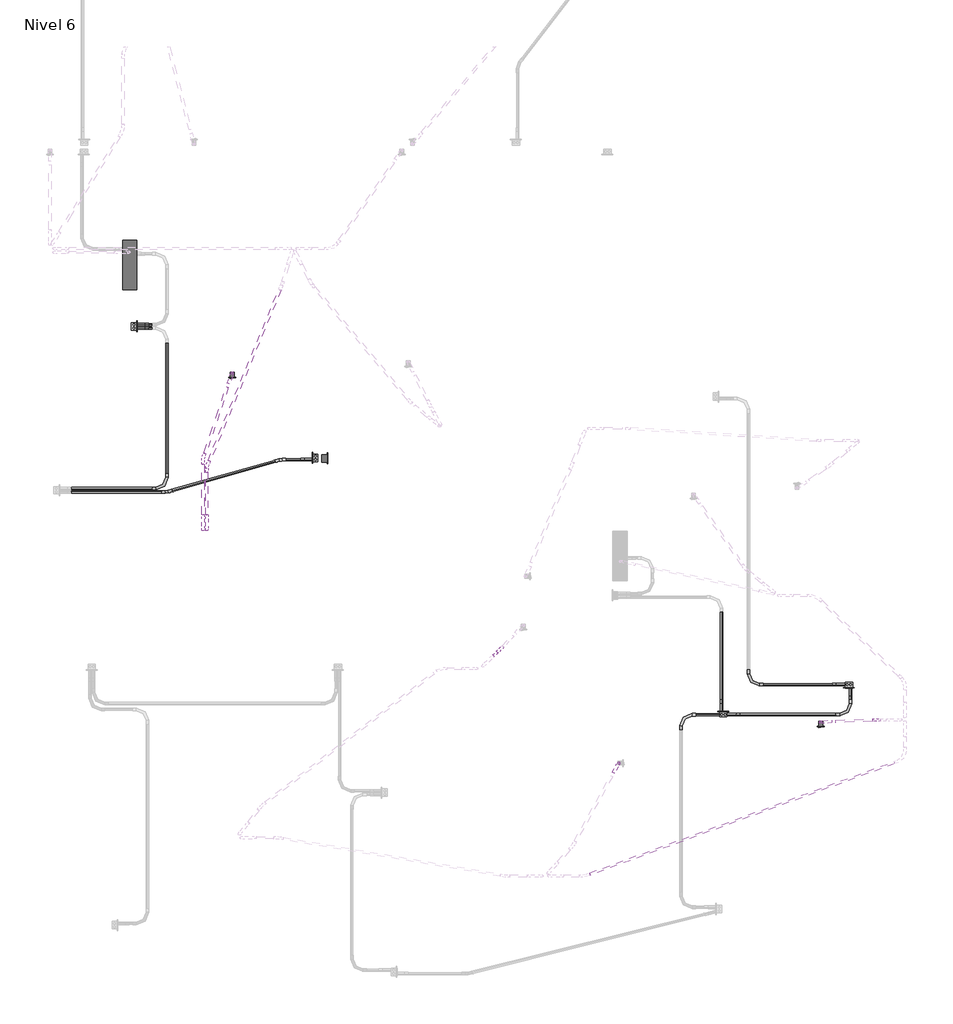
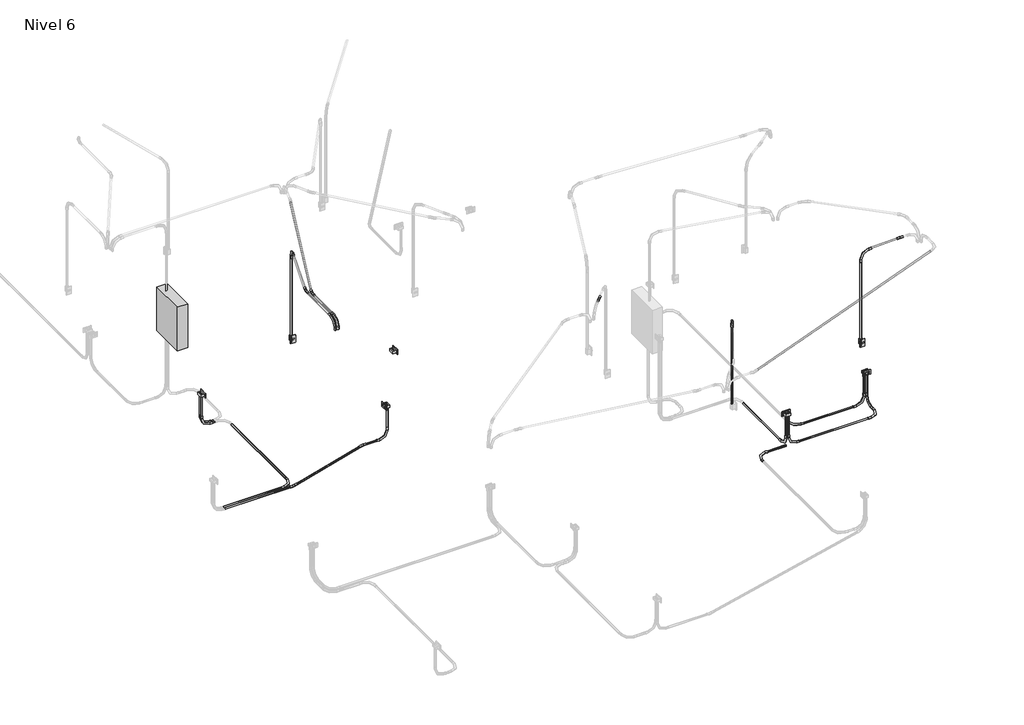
# One storey, part 4 of 9: 29 cable carrier segments, 22 cable carrier fittings, 6 proxies, 2 switching devices.
"""IFC4 building model written with IfcOpenShell, lengths in millimetres."""

from ifc_helpers import new_model, si_unit, point, frame, frame_2d, origin, place, context, project, spatial, circle_curve, trimmed, segment, composite_curve, outline, extrude, transform, mapped, element, save
from components import proxy_125_a_fe578df2, gfci_180f1b41, m_codo_de_tubo_extremo_liso_pvc_9da73e12, m_codo_de_tubo_extremo_liso_pvc_f2a7097b, m_codo_de_tubo_extremo_liso_pvc_48e1025b, m_codo_de_tubo_extremo_liso_pvc_62d78873, m_codo_de_tubo_extremo_liso_pvc_0abab895, m_codo_de_tubo_extremo_liso_pvc_664ab9d5, switching_device_22fed34b

model = new_model("IFC4")

# Units and contexts
model_context = context("Model", 3, world=origin())
ifc_project = project(units=[si_unit("LENGTHUNIT", "METRE", prefix="MILLI")], contexts=[model_context])

# Site, building, storey
site = spatial("IfcSite", under=ifc_project)
building = spatial("IfcBuilding", under=site)
storey = spatial("IfcBuildingStorey", under=building, Name="Nivel 6", Elevation=13400.0)

# Proxies
placement = place(None, origin())
proxy_125_a_shape = proxy_125_a_fe578df2(model_context)
element("IfcBuildingElementProxy", 1, Name="M_Cuadro de control de accesorios e iluminación - 480V MLO : 125 A", ObjectType="M_Cuadro de control de accesorios e iluminación - 480V MLO : 125 A", at=placement, inside=storey, context=model_context, shape_type="MappedRepresentation", body=[
    mapped(proxy_125_a_shape, transform((335.0, 7907.5416413, 14226.1274047), x_axis=(0.0, 1.0, 0.0), y_axis=(0.0, 0.0, 1.0), z_axis=(1.0, 0.0, 0.0))),
])
gfci_shape = gfci_180f1b41(model_context)
element("IfcBuildingElementProxy", 2, Name="Tomacorriente doble 220V : GFCI", ObjectType="Tomacorriente doble 220V : GFCI", at=placement, inside=storey, context=model_context, shape_type="MappedRepresentation", body=[
    mapped(gfci_shape, transform((335.0, 7274.5904162, 13800.0), x_axis=(0.0, 0.0, 1.0), y_axis=(0.0, -1.0, 0.0), z_axis=(1.0, 0.0, 0.0))),
])
element("IfcBuildingElementProxy", 3, Name="Tomacorriente doble 220V : GFCI", ObjectType="Tomacorriente doble 220V : GFCI", at=placement, inside=storey, context=model_context, shape_type="MappedRepresentation", body=[
    mapped(gfci_shape, transform((2150.0, 5918.0215918, 13800.0), x_axis=(0.0, 0.0, 1.0), y_axis=(0.0, 1.0, 0.0), z_axis=(-1.0, 0.0, 0.0))),
])
element("IfcBuildingElementProxy", 4, Name="Tomacorriente doble 220V : GFCI", ObjectType="Tomacorriente doble 220V : GFCI", at=placement, inside=storey, context=model_context, shape_type="MappedRepresentation", body=[
    mapped(gfci_shape, transform((2300.0, 5913.3908907, 14600.0), x_axis=(0.0, 0.0, 1.0), y_axis=(0.0, -1.0, 0.0), z_axis=(1.0, 0.0, 0.0))),
])
element("IfcBuildingElementProxy", 5, Name="Tomacorriente doble 220V : GFCI", ObjectType="Tomacorriente doble 220V : GFCI", at=placement, inside=storey, context=model_context, shape_type="MappedRepresentation", body=[
    mapped(gfci_shape, transform((6386.2285282, 3300.0, 13800.0), x_axis=(0.0, 0.0, 1.0), y_axis=(1.0, 0.0, 0.0), z_axis=(0.0, 1.0, 0.0))),
])
element("IfcBuildingElementProxy", 6, Name="Tomacorriente doble 220V : GFCI", ObjectType="Tomacorriente doble 220V : GFCI", at=placement, inside=storey, context=model_context, shape_type="MappedRepresentation", body=[
    mapped(gfci_shape, transform((7682.2800808, 3549.6610156, 13800.0), x_axis=(0.0, 0.0, 1.0), y_axis=(-1.0, 0.0, 0.0), z_axis=(0.0, -1.0, 0.0))),
])

# Cable carrier fittings
m_codo_de_tubo_extremo_liso_pvc_shape = m_codo_de_tubo_extremo_liso_pvc_9da73e12(model_context)
element("IfcCableCarrierFitting", 7, ObjectType="M_Codo de tubo - Extremo liso - PVC : CODO POTENCIA", at=placement, inside=storey, context=model_context, shape_type="MappedRepresentation", body=[
    mapped(m_codo_de_tubo_extremo_liso_pvc_shape, transform((2179.6371118, 5899.989772, 13330.0), x_axis=(0.0, 0.0, -1.0), y_axis=(-1.0, 0.0, 0.0), z_axis=(0.0, 1.0, 0.0))),
])
element("IfcCableCarrierFitting", 8, ObjectType="M_Codo de tubo - Extremo liso - PVC : CODO POTENCIA", at=placement, inside=storey, context=model_context, shape_type="MappedRepresentation", body=[
    mapped(m_codo_de_tubo_extremo_liso_pvc_shape, transform((305.3628882, 7256.5585964, 13330.0), x_axis=(0.0, 0.0, -1.0), y_axis=(1.0, 0.0, 0.0), z_axis=(0.0, -1.0, 0.0))),
])
element("IfcCableCarrierFitting", 9, ObjectType="M_Codo de tubo - Extremo liso - PVC : CODO POTENCIA", at=placement, inside=storey, context=model_context, shape_type="MappedRepresentation", body=[
    mapped(m_codo_de_tubo_extremo_liso_pvc_shape, transform((305.3628882, 7292.622236, 13330.0), x_axis=(0.0, 0.0, -1.0), y_axis=(1.0, 0.0, 0.0), z_axis=(0.0, -1.0, 0.0))),
])
element("IfcCableCarrierFitting", 10, ObjectType="M_Codo de tubo - Extremo liso - PVC : CODO POTENCIA", at=placement, inside=storey, context=model_context, shape_type="MappedRepresentation", body=[
    mapped(m_codo_de_tubo_extremo_liso_pvc_shape, transform((646.6378129, 5602.8931395, 13330.0), x_axis=(1.0, 0.0, 0.0), y_axis=(0.0, 1.0, 0.0), z_axis=(0.0, 0.0, 1.0))),
])
element("IfcCableCarrierFitting", 11, ObjectType="M_Codo de tubo - Extremo liso - PVC : CODO POTENCIA", at=placement, inside=storey, context=model_context, shape_type="MappedRepresentation", body=[
    mapped(m_codo_de_tubo_extremo_liso_pvc_shape, transform((5951.3261146, 3269.1760096, 13330.0), x_axis=(-1.0, 0.0, 0.0), y_axis=(0.0, -1.0, 0.0), z_axis=(0.0, 0.0, 1.0))),
])
element("IfcCableCarrierFitting", 12, ObjectType="M_Codo de tubo - Extremo liso - PVC : CODO POTENCIA", at=placement, inside=storey, context=model_context, shape_type="MappedRepresentation", body=[
    mapped(m_codo_de_tubo_extremo_liso_pvc_shape, transform((6368.1967084, 3270.3628882, 13330.0), x_axis=(0.0, 0.0, -1.0), y_axis=(0.0, 1.0, 0.0), z_axis=(1.0, 0.0, 0.0))),
])
element("IfcCableCarrierFitting", 13, ObjectType="M_Codo de tubo - Extremo liso - PVC : CODO POTENCIA", at=placement, inside=storey, context=model_context, shape_type="MappedRepresentation", body=[
    mapped(m_codo_de_tubo_extremo_liso_pvc_shape, transform((7700.3119006, 3579.2981273, 13330.0), x_axis=(0.0, 0.0, -1.0), y_axis=(0.0, -1.0, 0.0), z_axis=(-1.0, 0.0, 0.0))),
])
element("IfcCableCarrierFitting", 14, ObjectType="M_Codo de tubo - Extremo liso - PVC : CODO POTENCIA", at=placement, inside=storey, context=model_context, shape_type="MappedRepresentation", body=[
    mapped(m_codo_de_tubo_extremo_liso_pvc_shape, transform((6645.3628882, 3579.2981273, 13330.0), x_axis=(0.0, -1.0, 0.0), y_axis=(1.0, 0.0, 0.0), z_axis=(0.0, 0.0, 1.0))),
])
element("IfcCableCarrierFitting", 15, ObjectType="M_Codo de tubo - Extremo liso - PVC : CODO POTENCIA", at=placement, inside=storey, context=model_context, shape_type="MappedRepresentation", body=[
    mapped(m_codo_de_tubo_extremo_liso_pvc_shape, transform((7664.248261, 3579.2981273, 13330.0), x_axis=(0.0, 0.0, -1.0), y_axis=(-1.0, 0.0, 0.0), z_axis=(0.0, 1.0, 0.0))),
])
element("IfcCableCarrierFitting", 16, ObjectType="M_Codo de tubo - Extremo liso - PVC : CODO POTENCIA", at=placement, inside=storey, context=model_context, shape_type="MappedRepresentation", body=[
    mapped(m_codo_de_tubo_extremo_liso_pvc_shape, transform((7700.3119006, 3270.3628882, 13330.0), x_axis=(1.0, 0.0, 0.0), y_axis=(0.0, 1.0, 0.0), z_axis=(0.0, 0.0, 1.0))),
])
element("IfcCableCarrierFitting", 17, ObjectType="M_Codo de tubo - Extremo liso - PVC : CODO POTENCIA", at=placement, inside=storey, context=model_context, shape_type="MappedRepresentation", body=[
    mapped(m_codo_de_tubo_extremo_liso_pvc_shape, transform((6404.260348, 3270.3628882, 13330.0), x_axis=(0.0, 0.0, -1.0), y_axis=(1.0, 0.0, 0.0), z_axis=(0.0, -1.0, 0.0))),
])
m_codo_de_tubo_extremo_liso_pvc_2_shape = m_codo_de_tubo_extremo_liso_pvc_f2a7097b(model_context)
element("IfcCableCarrierFitting", 18, ObjectType="M_Codo de tubo - Extremo liso - PVC : CODO POTENCIA", at=placement, inside=storey, context=model_context, shape_type="MappedRepresentation", body=[
    mapped(m_codo_de_tubo_extremo_liso_pvc_2_shape, transform((1819.6371118, 5899.989772, 13330.0), x_axis=(-1.0, 0.0, 0.0), y_axis=(0.0, -1.0, 0.0), z_axis=(0.0, 0.0, 1.0))),
])
element("IfcCableCarrierFitting", 19, ObjectType="M_Codo de tubo - Extremo liso - PVC : CODO POTENCIA", at=placement, inside=storey, context=model_context, shape_type="MappedRepresentation", body=[
    mapped(m_codo_de_tubo_extremo_liso_pvc_2_shape, transform((645.3628882, 5566.8294999, 13330.0), x_axis=(1.0, 0.0, 0.0), y_axis=(0.0, 1.0, 0.0), z_axis=(0.0, 0.0, 1.0))),
])
element("IfcCableCarrierFitting", 20, ObjectType="M_Codo de tubo - Extremo liso - PVC : CODO ILUMINACION", at=placement, inside=storey, context=model_context, shape_type="MappedRepresentation", body=[
    mapped(m_codo_de_tubo_extremo_liso_pvc_shape, transform((1058.275748, 5177.91766, 15950.0), x_axis=(0.0, -1.0, 0.0), y_axis=(0.0, 0.0, -1.0), z_axis=(1.0, 0.0, 0.0))),
])
element("IfcCableCarrierFitting", 21, ObjectType="M_Codo de tubo - Extremo liso - PVC : CODO ILUMINACION", at=placement, inside=storey, context=model_context, shape_type="MappedRepresentation", body=[
    mapped(m_codo_de_tubo_extremo_liso_pvc_shape, transform((1018.275748, 5177.91766, 15950.0), x_axis=(0.0, -1.0, 0.0), y_axis=(0.0, 0.0, -1.0), z_axis=(1.0, 0.0, 0.0))),
])
element("IfcCableCarrierFitting", 22, ObjectType="M_Codo de tubo - Extremo liso - PVC : CODO ILUMINACION", at=placement, inside=storey, context=model_context, shape_type="MappedRepresentation", body=[
    mapped(m_codo_de_tubo_extremo_liso_pvc_shape, transform((1320.1354742, 6793.1388757, 15950.0), x_axis=(0.0, 0.0, 1.0), y_axis=(-0.32353601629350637, -0.9462158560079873, 0.0), z_axis=(0.9462158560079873, -0.32353601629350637, 0.0))),
])
element("IfcCableCarrierFitting", 23, ObjectType="M_Codo de tubo - Extremo liso - PVC : CODO ILUMINACION", at=placement, inside=storey, context=model_context, shape_type="MappedRepresentation", body=[
    mapped(m_codo_de_tubo_extremo_liso_pvc_shape, transform((7391.9514599, 3193.1388756, 15950.0), x_axis=(0.0, 0.0, 1.0), y_axis=(0.9992435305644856, 0.038889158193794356, 0.0), z_axis=(-0.038889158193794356, 0.9992435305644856, 0.0))),
])
element("IfcCableCarrierFitting", 24, ObjectType="M_Codo de tubo - Extremo liso - PVC : CODO ILUMINACION", at=placement, inside=storey, context=model_context, shape_type="MappedRepresentation", body=[
    mapped(m_codo_de_tubo_extremo_liso_pvc_shape, transform((5306.9554403, 2769.726494, 15950.0), x_axis=(0.0, 0.0, 1.0), y_axis=(-0.47754354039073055, -0.8786080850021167, 0.0), z_axis=(0.8786080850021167, -0.47754354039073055, 0.0))),
])
m_codo_de_tubo_extremo_liso_pvc_3_shape = m_codo_de_tubo_extremo_liso_pvc_48e1025b(model_context)
element("IfcCableCarrierFitting", 25, ObjectType="M_Codo de tubo - Extremo liso - PVC : CODO ILUMINACION", at=placement, inside=storey, context=model_context, shape_type="MappedRepresentation", body=[
    mapped(m_codo_de_tubo_extremo_liso_pvc_3_shape, transform((1058.275748, 5831.8941195, 15950.0), x_axis=(-0.3825908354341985, -0.9239178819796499, 0.0), y_axis=(0.9239178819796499, -0.3825908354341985, 0.0), z_axis=(0.0, 0.0, 1.0))),
])
m_codo_de_tubo_extremo_liso_pvc_4_shape = m_codo_de_tubo_extremo_liso_pvc_62d78873(model_context)
element("IfcCableCarrierFitting", 26, ObjectType="M_Codo de tubo - Extremo liso - PVC : CODO ILUMINACION", at=placement, inside=storey, context=model_context, shape_type="MappedRepresentation", body=[
    mapped(m_codo_de_tubo_extremo_liso_pvc_4_shape, transform((1018.275748, 5910.31766, 15950.0), x_axis=(-0.32353601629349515, -0.9462158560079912, 0.0), y_axis=(0.9462158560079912, -0.32353601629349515, 0.0), z_axis=(0.0, 0.0, 1.0))),
])
m_codo_de_tubo_extremo_liso_pvc_5_shape = m_codo_de_tubo_extremo_liso_pvc_0abab895(model_context)
element("IfcCableCarrierFitting", 27, ObjectType="M_Codo de tubo - Extremo liso - PVC : CODO ILUMINACION", at=placement, inside=storey, context=model_context, shape_type="MappedRepresentation", body=[
    mapped(m_codo_de_tubo_extremo_liso_pvc_5_shape, transform((7966.4581979, 3215.497873, 15950.0), x_axis=(-1.0, 0.0, 0.0), y_axis=(0.0, -1.0, 0.0), z_axis=(0.0, 0.0, 1.0))),
])
m_codo_de_tubo_extremo_liso_pvc_6_shape = m_codo_de_tubo_extremo_liso_pvc_664ab9d5(model_context)
element("IfcCableCarrierFitting", 28, ObjectType="M_Codo de tubo - Extremo liso - PVC : CODO ILUMINACION", at=placement, inside=storey, context=model_context, shape_type="MappedRepresentation", body=[
    mapped(m_codo_de_tubo_extremo_liso_pvc_6_shape, transform((4084.8613398, 3942.8790612, 15950.0), x_axis=(0.7193398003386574, 0.6946583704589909, 0.0), y_axis=(-0.6946583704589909, 0.7193398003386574, 0.0), z_axis=(0.0, 0.0, 1.0))),
])

# Cable carrier segments
element("IfcCableCarrierSegment", 29, ObjectType="PVC-SEL, POTENCIA", at=placement, inside=storey, context=model_context, shape_type="SweptSolid", body=[
    extrude(outline(composite_curve([segment(trimmed(circle_curve(frame_2d((5566.8294999, 13330.0)), 11.71), [point((5555.1194999, 13330.0))], [point((5566.8294999, 13341.71))], False, "CARTESIAN"), True, "CONTINUOUS"), segment(trimmed(circle_curve(frame_2d((5566.8294999, 13330.0)), 11.71), [point((5566.8294999, 13341.71))], [point((5578.5394999, 13330.0))], False, "CARTESIAN"), True, "CONTINUOUS"), segment(trimmed(circle_curve(frame_2d((5566.8294999, 13330.0)), 11.71), [point((5578.5394999, 13330.0))], [point((5566.8294999, 13318.29))], False, "CARTESIAN"), True, "CONTINUOUS"), segment(trimmed(circle_curve(frame_2d((5566.8294999, 13330.0)), 11.71), [point((5566.8294999, 13318.29))], [point((5555.1194999, 13330.0))], False, "CARTESIAN"), True, "CONTINUOUS")], self_intersect=False)), frame((-342.2371118, 0.0, 0.0), z_axis=(1.0, 0.0, 0.0), x_axis=(0.0, 1.0, 0.0)), (0.0, 0.0, 1.0), 933.5994219),
])
element("IfcCableCarrierSegment", 30, ObjectType="PVC-SEL, POTENCIA", at=placement, inside=storey, context=model_context, shape_type="SweptSolid", body=[
    extrude(outline(composite_curve([segment(trimmed(circle_curve(frame_2d((5602.8931395, 13330.0)), 11.71), [point((5591.1831395, 13330.0))], [point((5602.8931395, 13341.71))], False, "CARTESIAN"), True, "CONTINUOUS"), segment(trimmed(circle_curve(frame_2d((5602.8931395, 13330.0)), 11.71), [point((5602.8931395, 13341.71))], [point((5614.6031395, 13330.0))], False, "CARTESIAN"), True, "CONTINUOUS"), segment(trimmed(circle_curve(frame_2d((5602.8931395, 13330.0)), 11.71), [point((5614.6031395, 13330.0))], [point((5602.8931395, 13318.29))], False, "CARTESIAN"), True, "CONTINUOUS"), segment(trimmed(circle_curve(frame_2d((5602.8931395, 13330.0)), 11.71), [point((5602.8931395, 13318.29))], [point((5591.1831395, 13330.0))], False, "CARTESIAN"), True, "CONTINUOUS")], self_intersect=False)), frame((-342.2371118, 0.0, 0.0), z_axis=(1.0, 0.0, 0.0), x_axis=(0.0, 1.0, 0.0)), (0.0, 0.0, 1.0), 836.4749247),
])
element("IfcCableCarrierSegment", 31, ObjectType="PVC-SEL, POTENCIA", at=placement, inside=storey, context=model_context, shape_type="SweptSolid", body=[
    extrude(outline(composite_curve([segment(trimmed(circle_curve(frame_2d((5899.989772, 13330.0)), 11.71), [point((5911.699772, 13330.0))], [point((5899.989772, 13318.29))], False, "CARTESIAN"), True, "CONTINUOUS"), segment(trimmed(circle_curve(frame_2d((5899.989772, 13330.0)), 11.71), [point((5899.989772, 13318.29))], [point((5888.279772, 13330.0))], False, "CARTESIAN"), True, "CONTINUOUS"), segment(trimmed(circle_curve(frame_2d((5899.989772, 13330.0)), 11.71), [point((5888.279772, 13330.0))], [point((5899.989772, 13341.71))], False, "CARTESIAN"), True, "CONTINUOUS"), segment(trimmed(circle_curve(frame_2d((5899.989772, 13330.0)), 11.71), [point((5899.989772, 13341.71))], [point((5911.699772, 13330.0))], False, "CARTESIAN"), True, "CONTINUOUS")], self_intersect=False)), frame((1873.6376899, 0.0, 0.0), z_axis=(1.0, 0.0, 0.0), x_axis=(0.0, 1.0, 0.0)), (0.0, 0.0, 1.0), 153.5994219),
])
element("IfcCableCarrierSegment", 32, ObjectType="PVC-SEL, POTENCIA", at=placement, inside=storey, context=model_context, shape_type="SweptSolid", body=[
    extrude(outline(composite_curve([segment(trimmed(circle_curve(frame_2d((2179.6371118, 5899.989772)), 11.71), [point((2191.3471118, 5899.989772))], [point((2179.6371118, 5888.279772))], False, "CARTESIAN"), True, "CONTINUOUS"), segment(trimmed(circle_curve(frame_2d((2179.6371118, 5899.989772)), 11.71), [point((2179.6371118, 5888.279772))], [point((2167.9271118, 5899.989772))], False, "CARTESIAN"), True, "CONTINUOUS"), segment(trimmed(circle_curve(frame_2d((2179.6371118, 5899.989772)), 11.71), [point((2167.9271118, 5899.989772))], [point((2179.6371118, 5911.699772))], False, "CARTESIAN"), True, "CONTINUOUS"), segment(trimmed(circle_curve(frame_2d((2179.6371118, 5899.989772)), 11.71), [point((2179.6371118, 5911.699772))], [point((2191.3471118, 5899.989772))], False, "CARTESIAN"), True, "CONTINUOUS")], self_intersect=False)), frame((0.0, 0.0, 13482.4), z_axis=(0.0, 0.0, 1.0), x_axis=(1.0, 0.0, 0.0)), (0.0, 0.0, 1.0), 297.3020537),
])
element("IfcCableCarrierSegment", 33, ObjectType="PVC-SEL, POTENCIA", at=placement, inside=storey, context=model_context, shape_type="SweptSolid", body=[
    extrude(outline(composite_curve([segment(trimmed(circle_curve(frame_2d((0.0, -11.71)), 11.71), [point((-11.71, -11.71))], [point((0.0, 0.0))], False, "CARTESIAN"), True, "CONTINUOUS"), segment(trimmed(circle_curve(frame_2d((0.0, -11.71)), 11.71), [point((0.0, 0.0))], [point((11.71, -11.71))], False, "CARTESIAN"), True, "CONTINUOUS"), segment(trimmed(circle_curve(frame_2d((0.0, -11.71)), 11.71), [point((11.71, -11.71))], [point((0.0, -23.42))], False, "CARTESIAN"), True, "CONTINUOUS"), segment(trimmed(circle_curve(frame_2d((0.0, -11.71)), 11.71), [point((0.0, -23.42))], [point((-11.71, -11.71))], False, "CARTESIAN"), True, "CONTINUOUS")], self_intersect=False)), frame((697.3130717, 5581.5685931, 13318.29), z_axis=(0.9620301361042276, 0.27294324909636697, 0.0), x_axis=(0.27294324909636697, -0.9620301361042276, 0.0)), (0.0, 0.0, 1.0), 1112.6198821),
])
element("IfcCableCarrierSegment", 34, ObjectType="PVC-SEL, POTENCIA", at=placement, inside=storey, context=model_context, shape_type="SweptSolid", body=[
    extrude(outline(composite_curve([segment(trimmed(circle_curve(frame_2d((13330.0, 646.6378129)), 11.71), [point((13330.0, 634.9278129))], [point((13318.29, 646.6378129))], False, "CARTESIAN"), True, "CONTINUOUS"), segment(trimmed(circle_curve(frame_2d((13330.0, 646.6378129)), 11.71), [point((13318.29, 646.6378129))], [point((13330.0, 658.3478129))], False, "CARTESIAN"), True, "CONTINUOUS"), segment(trimmed(circle_curve(frame_2d((13330.0, 646.6378129)), 11.71), [point((13330.0, 658.3478129))], [point((13341.71, 646.6378129))], False, "CARTESIAN"), True, "CONTINUOUS"), segment(trimmed(circle_curve(frame_2d((13330.0, 646.6378129)), 11.71), [point((13341.71, 646.6378129))], [point((13330.0, 634.9278129))], False, "CARTESIAN"), True, "CONTINUOUS")], self_intersect=False)), frame((0.0, 5755.2931395, 0.0), z_axis=(0.0, 1.0, 0.0), x_axis=(0.0, 0.0, 1.0)), (0.0, 0.0, 1.0), 1348.8654568),
])
element("IfcCableCarrierSegment", 35, ObjectType="PVC-SEL, POTENCIA", at=placement, inside=storey, context=model_context, shape_type="SweptSolid", body=[
    extrude(outline(composite_curve([segment(trimmed(circle_curve(frame_2d((7256.5585964, 13330.0)), 11.71), [point((7244.8485964, 13330.0))], [point((7256.5585964, 13341.71))], False, "CARTESIAN"), True, "CONTINUOUS"), segment(trimmed(circle_curve(frame_2d((7256.5585964, 13330.0)), 11.71), [point((7256.5585964, 13341.71))], [point((7268.2685964, 13330.0))], False, "CARTESIAN"), True, "CONTINUOUS"), segment(trimmed(circle_curve(frame_2d((7256.5585964, 13330.0)), 11.71), [point((7268.2685964, 13330.0))], [point((7256.5585964, 13318.29))], False, "CARTESIAN"), True, "CONTINUOUS"), segment(trimmed(circle_curve(frame_2d((7256.5585964, 13330.0)), 11.71), [point((7256.5585964, 13318.29))], [point((7244.8485964, 13330.0))], False, "CARTESIAN"), True, "CONTINUOUS")], self_intersect=False)), frame((457.7628882, 0.0, 0.0), z_axis=(1.0, 0.0, 0.0), x_axis=(0.0, 1.0, 0.0)), (0.0, 0.0, 1.0), 36.4749247),
])
element("IfcCableCarrierSegment", 36, ObjectType="PVC-SEL, POTENCIA", at=placement, inside=storey, context=model_context, shape_type="SweptSolid", body=[
    extrude(outline(composite_curve([segment(trimmed(circle_curve(frame_2d((305.3628882, 7256.5585964)), 11.71), [point((317.0728882, 7256.5585964))], [point((305.3628882, 7244.8485964))], False, "CARTESIAN"), True, "CONTINUOUS"), segment(trimmed(circle_curve(frame_2d((305.3628882, 7256.5585964)), 11.71), [point((305.3628882, 7244.8485964))], [point((293.6528882, 7256.5585964))], False, "CARTESIAN"), True, "CONTINUOUS"), segment(trimmed(circle_curve(frame_2d((305.3628882, 7256.5585964)), 11.71), [point((293.6528882, 7256.5585964))], [point((305.3628882, 7268.2685964))], False, "CARTESIAN"), True, "CONTINUOUS"), segment(trimmed(circle_curve(frame_2d((305.3628882, 7256.5585964)), 11.71), [point((305.3628882, 7268.2685964))], [point((317.0728882, 7256.5585964))], False, "CARTESIAN"), True, "CONTINUOUS")], self_intersect=False)), frame((0.0, 0.0, 13482.4), z_axis=(0.0, 0.0, 1.0), x_axis=(1.0, 0.0, 0.0)), (0.0, 0.0, 1.0), 297.3020537),
])
element("IfcCableCarrierSegment", 37, ObjectType="PVC-SEL, POTENCIA", at=placement, inside=storey, context=model_context, shape_type="SweptSolid", body=[
    extrude(outline(composite_curve([segment(trimmed(circle_curve(frame_2d((7292.622236, 13330.0)), 11.71), [point((7280.912236, 13330.0))], [point((7292.622236, 13341.71))], False, "CARTESIAN"), True, "CONTINUOUS"), segment(trimmed(circle_curve(frame_2d((7292.622236, 13330.0)), 11.71), [point((7292.622236, 13341.71))], [point((7304.332236, 13330.0))], False, "CARTESIAN"), True, "CONTINUOUS"), segment(trimmed(circle_curve(frame_2d((7292.622236, 13330.0)), 11.71), [point((7304.332236, 13330.0))], [point((7292.622236, 13318.29))], False, "CARTESIAN"), True, "CONTINUOUS"), segment(trimmed(circle_curve(frame_2d((7292.622236, 13330.0)), 11.71), [point((7292.622236, 13318.29))], [point((7280.912236, 13330.0))], False, "CARTESIAN"), True, "CONTINUOUS")], self_intersect=False)), frame((457.7628882, 0.0, 0.0), z_axis=(1.0, 0.0, 0.0), x_axis=(0.0, 1.0, 0.0)), (0.0, 0.0, 1.0), 36.4749247),
])
element("IfcCableCarrierSegment", 38, ObjectType="PVC-SEL, POTENCIA", at=placement, inside=storey, context=model_context, shape_type="SweptSolid", body=[
    extrude(outline(composite_curve([segment(trimmed(circle_curve(frame_2d((305.3628882, 7292.622236)), 11.71), [point((317.0728882, 7292.622236))], [point((305.3628882, 7280.912236))], False, "CARTESIAN"), True, "CONTINUOUS"), segment(trimmed(circle_curve(frame_2d((305.3628882, 7292.622236)), 11.71), [point((305.3628882, 7280.912236))], [point((293.6528882, 7292.622236))], False, "CARTESIAN"), True, "CONTINUOUS"), segment(trimmed(circle_curve(frame_2d((305.3628882, 7292.622236)), 11.71), [point((293.6528882, 7292.622236))], [point((305.3628882, 7304.332236))], False, "CARTESIAN"), True, "CONTINUOUS"), segment(trimmed(circle_curve(frame_2d((305.3628882, 7292.622236)), 11.71), [point((305.3628882, 7304.332236))], [point((317.0728882, 7292.622236))], False, "CARTESIAN"), True, "CONTINUOUS")], self_intersect=False)), frame((0.0, 0.0, 13482.4), z_axis=(0.0, 0.0, 1.0), x_axis=(1.0, 0.0, 0.0)), (0.0, 0.0, 1.0), 297.3020537),
])
element("IfcCableCarrierSegment", 39, ObjectType="PVC-SEL, POTENCIA", at=placement, inside=storey, context=model_context, shape_type="SweptSolid", body=[
    extrude(outline(composite_curve([segment(trimmed(circle_curve(frame_2d((7664.248261, 3579.2981273)), 11.71), [point((7675.958261, 3579.2981273))], [point((7664.248261, 3567.5881273))], False, "CARTESIAN"), True, "CONTINUOUS"), segment(trimmed(circle_curve(frame_2d((7664.248261, 3579.2981273)), 11.71), [point((7664.248261, 3567.5881273))], [point((7652.538261, 3579.2981273))], False, "CARTESIAN"), True, "CONTINUOUS"), segment(trimmed(circle_curve(frame_2d((7664.248261, 3579.2981273)), 11.71), [point((7652.538261, 3579.2981273))], [point((7664.248261, 3591.0081273))], False, "CARTESIAN"), True, "CONTINUOUS"), segment(trimmed(circle_curve(frame_2d((7664.248261, 3579.2981273)), 11.71), [point((7664.248261, 3591.0081273))], [point((7675.958261, 3579.2981273))], False, "CARTESIAN"), True, "CONTINUOUS")], self_intersect=False)), frame((0.0, 0.0, 13482.4), z_axis=(0.0, 0.0, 1.0), x_axis=(1.0, 0.0, 0.0)), (0.0, 0.0, 1.0), 297.3020537),
])
element("IfcCableCarrierSegment", 40, ObjectType="PVC-SEL, POTENCIA", at=placement, inside=storey, context=model_context, shape_type="SweptSolid", body=[
    extrude(outline(composite_curve([segment(trimmed(circle_curve(frame_2d((3270.3628882, 13330.0)), 11.71), [point((3282.0728882, 13330.0))], [point((3270.3628882, 13318.29))], False, "CARTESIAN"), True, "CONTINUOUS"), segment(trimmed(circle_curve(frame_2d((3270.3628882, 13330.0)), 11.71), [point((3270.3628882, 13318.29))], [point((3258.6528882, 13330.0))], False, "CARTESIAN"), True, "CONTINUOUS"), segment(trimmed(circle_curve(frame_2d((3270.3628882, 13330.0)), 11.71), [point((3258.6528882, 13330.0))], [point((3270.3628882, 13341.71))], False, "CARTESIAN"), True, "CONTINUOUS"), segment(trimmed(circle_curve(frame_2d((3270.3628882, 13330.0)), 11.71), [point((3270.3628882, 13341.71))], [point((3282.0728882, 13330.0))], False, "CARTESIAN"), True, "CONTINUOUS")], self_intersect=False)), frame((6556.660348, 0.0, 0.0), z_axis=(1.0, 0.0, 0.0), x_axis=(0.0, 1.0, 0.0)), (0.0, 0.0, 1.0), 991.2515526),
])
element("IfcCableCarrierSegment", 41, ObjectType="PVC-SEL, POTENCIA", at=placement, inside=storey, context=model_context, shape_type="SweptSolid", body=[
    extrude(outline(composite_curve([segment(trimmed(circle_curve(frame_2d((6404.260348, 3270.3628882)), 11.71), [point((6415.970348, 3270.3628882))], [point((6404.260348, 3258.6528882))], False, "CARTESIAN"), True, "CONTINUOUS"), segment(trimmed(circle_curve(frame_2d((6404.260348, 3270.3628882)), 11.71), [point((6404.260348, 3258.6528882))], [point((6392.550348, 3270.3628882))], False, "CARTESIAN"), True, "CONTINUOUS"), segment(trimmed(circle_curve(frame_2d((6404.260348, 3270.3628882)), 11.71), [point((6392.550348, 3270.3628882))], [point((6404.260348, 3282.0728882))], False, "CARTESIAN"), True, "CONTINUOUS"), segment(trimmed(circle_curve(frame_2d((6404.260348, 3270.3628882)), 11.71), [point((6404.260348, 3282.0728882))], [point((6415.970348, 3270.3628882))], False, "CARTESIAN"), True, "CONTINUOUS")], self_intersect=False)), frame((0.0, 0.0, 13482.4), z_axis=(0.0, 0.0, 1.0), x_axis=(1.0, 0.0, 0.0)), (0.0, 0.0, 1.0), 297.3020537),
])
element("IfcCableCarrierSegment", 42, ObjectType="PVC-SEL, POTENCIA", at=placement, inside=storey, context=model_context, shape_type="SweptSolid", body=[
    extrude(outline(composite_curve([segment(trimmed(circle_curve(frame_2d((13330.0, 6368.1967084)), 11.71), [point((13330.0, 6379.9067084))], [point((13341.71, 6368.1967084))], False, "CARTESIAN"), True, "CONTINUOUS"), segment(trimmed(circle_curve(frame_2d((13330.0, 6368.1967084)), 11.71), [point((13341.71, 6368.1967084))], [point((13330.0, 6356.4867084))], False, "CARTESIAN"), True, "CONTINUOUS"), segment(trimmed(circle_curve(frame_2d((13330.0, 6368.1967084)), 11.71), [point((13330.0, 6356.4867084))], [point((13318.29, 6368.1967084))], False, "CARTESIAN"), True, "CONTINUOUS"), segment(trimmed(circle_curve(frame_2d((13330.0, 6368.1967084)), 11.71), [point((13318.29, 6368.1967084))], [point((13330.0, 6379.9067084))], False, "CARTESIAN"), True, "CONTINUOUS")], self_intersect=False)), frame((0.0, 3422.7628882, 0.0), z_axis=(0.0, 1.0, 0.0), x_axis=(0.0, 0.0, 1.0)), (0.0, 0.0, 1.0), 906.4005007),
])
element("IfcCableCarrierSegment", 43, ObjectType="PVC-SEL, POTENCIA", at=placement, inside=storey, context=model_context, shape_type="SweptSolid", body=[
    extrude(outline(composite_curve([segment(trimmed(circle_curve(frame_2d((6368.1967084, 3270.3628882)), 11.71), [point((6379.9067084, 3270.3628882))], [point((6368.1967084, 3258.6528882))], False, "CARTESIAN"), True, "CONTINUOUS"), segment(trimmed(circle_curve(frame_2d((6368.1967084, 3270.3628882)), 11.71), [point((6368.1967084, 3258.6528882))], [point((6356.4867084, 3270.3628882))], False, "CARTESIAN"), True, "CONTINUOUS"), segment(trimmed(circle_curve(frame_2d((6368.1967084, 3270.3628882)), 11.71), [point((6356.4867084, 3270.3628882))], [point((6368.1967084, 3282.0728882))], False, "CARTESIAN"), True, "CONTINUOUS"), segment(trimmed(circle_curve(frame_2d((6368.1967084, 3270.3628882)), 11.71), [point((6368.1967084, 3282.0728882))], [point((6379.9067084, 3270.3628882))], False, "CARTESIAN"), True, "CONTINUOUS")], self_intersect=False)), frame((0.0, 0.0, 13482.4), z_axis=(0.0, 0.0, 1.0), x_axis=(1.0, 0.0, 0.0)), (0.0, 0.0, 1.0), 297.3020537),
])
element("IfcCableCarrierSegment", 44, ObjectType="PVC-SEL, POTENCIA", at=placement, inside=storey, context=model_context, shape_type="SweptSolid", body=[
    extrude(outline(composite_curve([segment(trimmed(circle_curve(frame_2d((3269.1760096, 13330.0)), 11.71), [point((3257.4660096, 13330.0))], [point((3269.1760096, 13341.71))], False, "CARTESIAN"), True, "CONTINUOUS"), segment(trimmed(circle_curve(frame_2d((3269.1760096, 13330.0)), 11.71), [point((3269.1760096, 13341.71))], [point((3280.8860096, 13330.0))], False, "CARTESIAN"), True, "CONTINUOUS"), segment(trimmed(circle_curve(frame_2d((3269.1760096, 13330.0)), 11.71), [point((3280.8860096, 13330.0))], [point((3269.1760096, 13318.29))], False, "CARTESIAN"), True, "CONTINUOUS"), segment(trimmed(circle_curve(frame_2d((3269.1760096, 13330.0)), 11.71), [point((3269.1760096, 13318.29))], [point((3257.4660096, 13330.0))], False, "CARTESIAN"), True, "CONTINUOUS")], self_intersect=False)), frame((6103.7261146, 0.0, 0.0), z_axis=(1.0, 0.0, 0.0), x_axis=(0.0, 1.0, 0.0)), (0.0, 0.0, 1.0), 264.4705938),
])
element("IfcCableCarrierSegment", 45, ObjectType="PVC-SEL, POTENCIA", at=placement, inside=storey, context=model_context, shape_type="SweptSolid", body=[
    extrude(outline(composite_curve([segment(trimmed(circle_curve(frame_2d((3579.2981273, 13330.0)), 11.71), [point((3567.5881273, 13330.0))], [point((3579.2981273, 13341.71))], False, "CARTESIAN"), True, "CONTINUOUS"), segment(trimmed(circle_curve(frame_2d((3579.2981273, 13330.0)), 11.71), [point((3579.2981273, 13341.71))], [point((3591.0081273, 13330.0))], False, "CARTESIAN"), True, "CONTINUOUS"), segment(trimmed(circle_curve(frame_2d((3579.2981273, 13330.0)), 11.71), [point((3591.0081273, 13330.0))], [point((3579.2981273, 13318.29))], False, "CARTESIAN"), True, "CONTINUOUS"), segment(trimmed(circle_curve(frame_2d((3579.2981273, 13330.0)), 11.71), [point((3579.2981273, 13318.29))], [point((3567.5881273, 13330.0))], False, "CARTESIAN"), True, "CONTINUOUS")], self_intersect=False)), frame((6797.7628882, 0.0, 0.0), z_axis=(1.0, 0.0, 0.0), x_axis=(0.0, 1.0, 0.0)), (0.0, 0.0, 1.0), 714.0853727),
])
element("IfcCableCarrierSegment", 46, ObjectType="PVC-SEL, POTENCIA", at=placement, inside=storey, context=model_context, shape_type="SweptSolid", body=[
    extrude(outline(composite_curve([segment(trimmed(circle_curve(frame_2d((0.0, -11.71)), 11.71), [point((0.0, 0.0))], [point((11.71, -11.71))], False, "CARTESIAN"), True, "CONTINUOUS"), segment(trimmed(circle_curve(frame_2d((0.0, -11.71)), 11.71), [point((11.71, -11.71))], [point((0.0, -23.42))], False, "CARTESIAN"), True, "CONTINUOUS"), segment(trimmed(circle_curve(frame_2d((0.0, -11.71)), 11.71), [point((0.0, -23.42))], [point((-11.71, -11.71))], False, "CARTESIAN"), True, "CONTINUOUS"), segment(trimmed(circle_curve(frame_2d((0.0, -11.71)), 11.71), [point((-11.71, -11.71))], [point((0.0, 0.0))], False, "CARTESIAN"), True, "CONTINUOUS")], self_intersect=False)), frame((7688.6019006, 3422.7628882, 13330.0), z_axis=(-1.5720530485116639e-12, 1.0, 0.0), x_axis=(0.0, 0.0, -1.0)), (0.0, 0.0, 1.0), 4.1352391),
])
element("IfcCableCarrierSegment", 47, ObjectType="PVC-SEL, POTENCIA", at=placement, inside=storey, context=model_context, shape_type="SweptSolid", body=[
    extrude(outline(composite_curve([segment(trimmed(circle_curve(frame_2d((7700.3119006, 3579.2981273)), 11.71), [point((7712.0219006, 3579.2981273))], [point((7700.3119006, 3567.5881273))], False, "CARTESIAN"), True, "CONTINUOUS"), segment(trimmed(circle_curve(frame_2d((7700.3119006, 3579.2981273)), 11.71), [point((7700.3119006, 3567.5881273))], [point((7688.6019006, 3579.2981273))], False, "CARTESIAN"), True, "CONTINUOUS"), segment(trimmed(circle_curve(frame_2d((7700.3119006, 3579.2981273)), 11.71), [point((7688.6019006, 3579.2981273))], [point((7700.3119006, 3591.0081273))], False, "CARTESIAN"), True, "CONTINUOUS"), segment(trimmed(circle_curve(frame_2d((7700.3119006, 3579.2981273)), 11.71), [point((7700.3119006, 3591.0081273))], [point((7712.0219006, 3579.2981273))], False, "CARTESIAN"), True, "CONTINUOUS")], self_intersect=False)), frame((0.0, 0.0, 13482.4), z_axis=(0.0, 0.0, 1.0), x_axis=(1.0, 0.0, 0.0)), (0.0, 0.0, 1.0), 297.3020537),
])
element("IfcCableCarrierSegment", 48, ObjectType="PVC-SEL ILUMINACION", at=placement, inside=storey, context=model_context, shape_type="SweptSolid", body=[
    extrude(outline(composite_curve([segment(trimmed(circle_curve(frame_2d((0.0, -11.71)), 11.71), [point((-11.71, -11.71))], [point((0.0, 0.0))], False, "CARTESIAN"), True, "CONTINUOUS"), segment(trimmed(circle_curve(frame_2d((0.0, -11.71)), 11.71), [point((0.0, 0.0))], [point((11.71, -11.71))], False, "CARTESIAN"), True, "CONTINUOUS"), segment(trimmed(circle_curve(frame_2d((0.0, -11.71)), 11.71), [point((11.71, -11.71))], [point((0.0, -23.42))], False, "CARTESIAN"), True, "CONTINUOUS"), segment(trimmed(circle_curve(frame_2d((0.0, -11.71)), 11.71), [point((0.0, -23.42))], [point((-11.71, -11.71))], False, "CARTESIAN"), True, "CONTINUOUS")], self_intersect=False)), frame((1081.5486449, 5888.0957941, 15938.29), z_axis=(0.38259083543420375, 0.9239178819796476, 0.0), x_axis=(0.9239178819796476, -0.38259083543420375, 0.0)), (0.0, 0.0, 1.0), 1912.6081927),
])
element("IfcCableCarrierSegment", 49, ObjectType="PVC-SEL ILUMINACION", at=placement, inside=storey, context=model_context, shape_type="SweptSolid", body=[
    extrude(outline(composite_curve([segment(trimmed(circle_curve(frame_2d((15950.0, 1058.275748)), 11.71), [point((15950.0, 1069.985748))], [point((15961.71, 1058.275748))], False, "CARTESIAN"), True, "CONTINUOUS"), segment(trimmed(circle_curve(frame_2d((15950.0, 1058.275748)), 11.71), [point((15961.71, 1058.275748))], [point((15950.0, 1046.565748))], False, "CARTESIAN"), True, "CONTINUOUS"), segment(trimmed(circle_curve(frame_2d((15950.0, 1058.275748)), 11.71), [point((15950.0, 1046.565748))], [point((15938.29, 1058.275748))], False, "CARTESIAN"), True, "CONTINUOUS"), segment(trimmed(circle_curve(frame_2d((15950.0, 1058.275748)), 11.71), [point((15938.29, 1058.275748))], [point((15950.0, 1069.985748))], False, "CARTESIAN"), True, "CONTINUOUS")], self_intersect=False)), frame((0.0, 5330.31766, 0.0), z_axis=(0.0, 1.0, 0.0), x_axis=(0.0, 0.0, 1.0)), (0.0, 0.0, 1.0), 440.7467303),
])
element("IfcCableCarrierSegment", 50, ObjectType="PVC-SEL ILUMINACION", at=placement, inside=storey, context=model_context, shape_type="SweptSolid", body=[
    extrude(outline(composite_curve([segment(trimmed(circle_curve(frame_2d((15950.0, 1018.275748)), 11.71), [point((15950.0, 1029.985748))], [point((15961.71, 1018.275748))], False, "CARTESIAN"), True, "CONTINUOUS"), segment(trimmed(circle_curve(frame_2d((15950.0, 1018.275748)), 11.71), [point((15961.71, 1018.275748))], [point((15950.0, 1006.565748))], False, "CARTESIAN"), True, "CONTINUOUS"), segment(trimmed(circle_curve(frame_2d((15950.0, 1018.275748)), 11.71), [point((15950.0, 1006.565748))], [point((15938.29, 1018.275748))], False, "CARTESIAN"), True, "CONTINUOUS"), segment(trimmed(circle_curve(frame_2d((15950.0, 1018.275748)), 11.71), [point((15938.29, 1018.275748))], [point((15950.0, 1029.985748))], False, "CARTESIAN"), True, "CONTINUOUS")], self_intersect=False)), frame((0.0, 5330.31766, 0.0), z_axis=(0.0, 1.0, 0.0), x_axis=(0.0, 0.0, 1.0)), (0.0, 0.0, 1.0), 522.8989388),
])
element("IfcCableCarrierSegment", 51, ObjectType="PVC-SEL ILUMINACION", at=placement, inside=storey, context=model_context, shape_type="SweptSolid", body=[
    extrude(outline(composite_curve([segment(trimmed(circle_curve(frame_2d((0.0, 11.71)), 11.71), [point((11.7099999, 11.71))], [point((0.0, 0.0))], False, "CARTESIAN"), True, "CONTINUOUS"), segment(trimmed(circle_curve(frame_2d((0.0, 11.71)), 11.71), [point((0.0, 0.0))], [point((-11.71, 11.71))], False, "CARTESIAN"), True, "CONTINUOUS"), segment(trimmed(circle_curve(frame_2d((0.0, 11.71)), 11.71), [point((-11.71, 11.71))], [point((0.0, 23.42))], False, "CARTESIAN"), True, "CONTINUOUS"), segment(trimmed(circle_curve(frame_2d((0.0, 11.71)), 11.71), [point((0.0, 23.42))], [point((11.7099999, 11.71))], False, "CARTESIAN"), True, "CONTINUOUS")], self_intersect=False)), frame((1036.7499979, 5964.3475895, 15961.71), z_axis=(0.32353601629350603, 0.9462158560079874, 0.0), x_axis=(0.9462158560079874, -0.32353601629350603, 0.0)), (0.0, 0.0, 1.0), 723.5008644),
])
element("IfcCableCarrierSegment", 52, ObjectType="PVC-SEL ILUMINACION", at=placement, inside=storey, context=model_context, shape_type="SweptSolid", body=[
    extrude(outline(composite_curve([segment(trimmed(circle_curve(frame_2d((1320.1354742, 6793.1388757)), 11.71), [point((1308.4254742, 6793.1388757))], [point((1320.1354742, 6804.8488757))], False, "CARTESIAN"), True, "CONTINUOUS"), segment(trimmed(circle_curve(frame_2d((1320.1354742, 6793.1388757)), 11.71), [point((1320.1354742, 6804.8488757))], [point((1331.8454742, 6793.1388757))], False, "CARTESIAN"), True, "CONTINUOUS"), segment(trimmed(circle_curve(frame_2d((1320.1354742, 6793.1388757)), 11.71), [point((1331.8454742, 6793.1388757))], [point((1320.1354742, 6781.4288757))], False, "CARTESIAN"), True, "CONTINUOUS"), segment(trimmed(circle_curve(frame_2d((1320.1354742, 6793.1388757)), 11.71), [point((1320.1354742, 6781.4288757))], [point((1308.4254742, 6793.1388757))], False, "CARTESIAN"), True, "CONTINUOUS")], self_intersect=False)), frame((0.0, 0.0, 14640.2227463), z_axis=(0.0, 0.0, 1.0), x_axis=(1.0, 0.0, 0.0)), (0.0, 0.0, 1.0), 1157.3772537),
])
element("IfcCableCarrierSegment", 53, ObjectType="PVC-SEL ILUMINACION", at=placement, inside=storey, context=model_context, shape_type="SweptSolid", body=[
    extrude(outline(composite_curve([segment(trimmed(circle_curve(frame_2d((0.0, -11.71)), 11.71), [point((-11.71, -11.71))], [point((0.0, 0.0))], False, "CARTESIAN"), True, "CONTINUOUS"), segment(trimmed(circle_curve(frame_2d((0.0, -11.71)), 11.71), [point((0.0, 0.0))], [point((11.71, -11.71))], False, "CARTESIAN"), True, "CONTINUOUS"), segment(trimmed(circle_curve(frame_2d((0.0, -11.71)), 11.71), [point((11.71, -11.71))], [point((0.0, -23.42))], False, "CARTESIAN"), True, "CONTINUOUS"), segment(trimmed(circle_curve(frame_2d((0.0, -11.71)), 11.71), [point((0.0, -23.42))], [point((-11.71, -11.71))], False, "CARTESIAN"), True, "CONTINUOUS")], self_intersect=False)), frame((5012.5231628, 1625.8887652, 15938.29), z_axis=(0.9390534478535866, 0.34377117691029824, 0.0), x_axis=(0.34377117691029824, -0.9390534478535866, 0.0)), (0.0, 0.0, 1.0), 3339.9571623),
])
element("IfcCableCarrierSegment", 54, ObjectType="PVC-SEL ILUMINACION", at=placement, inside=storey, context=model_context, shape_type="SweptSolid", body=[
    extrude(outline(composite_curve([segment(trimmed(circle_curve(frame_2d((0.0, 11.71)), 11.71), [point((11.7100001, 11.71))], [point((0.0, 0.0))], False, "CARTESIAN"), True, "CONTINUOUS"), segment(trimmed(circle_curve(frame_2d((0.0, 11.71)), 11.71), [point((0.0, 0.0))], [point((-11.71, 11.71))], False, "CARTESIAN"), True, "CONTINUOUS"), segment(trimmed(circle_curve(frame_2d((0.0, 11.71)), 11.71), [point((-11.71, 11.71))], [point((0.0, 23.42))], False, "CARTESIAN"), True, "CONTINUOUS"), segment(trimmed(circle_curve(frame_2d((0.0, 11.71)), 11.71), [point((0.0, 23.42))], [point((11.7100001, 11.71))], False, "CARTESIAN"), True, "CONTINUOUS")], self_intersect=False)), frame((7544.236174, 3199.0655834, 15961.71), z_axis=(0.9992435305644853, 0.03888915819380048, 0.0), x_axis=(0.03888915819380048, -0.9992435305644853, 1.5987211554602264e-12)), (0.0, 0.0, 1.0), 382.2183074),
])
element("IfcCableCarrierSegment", 55, ObjectType="PVC-SEL ILUMINACION", at=placement, inside=storey, context=model_context, shape_type="SweptSolid", body=[
    extrude(outline(composite_curve([segment(trimmed(circle_curve(frame_2d((7391.9514599, 3193.1388756)), 11.71), [point((7380.2414599, 3193.1388756))], [point((7391.9514599, 3204.8488756))], False, "CARTESIAN"), True, "CONTINUOUS"), segment(trimmed(circle_curve(frame_2d((7391.9514599, 3193.1388756)), 11.71), [point((7391.9514599, 3204.8488756))], [point((7403.6614599, 3193.1388756))], False, "CARTESIAN"), True, "CONTINUOUS"), segment(trimmed(circle_curve(frame_2d((7391.9514599, 3193.1388756)), 11.71), [point((7403.6614599, 3193.1388756))], [point((7391.9514599, 3181.4288756))], False, "CARTESIAN"), True, "CONTINUOUS"), segment(trimmed(circle_curve(frame_2d((7391.9514599, 3193.1388756)), 11.71), [point((7391.9514599, 3181.4288756))], [point((7380.2414599, 3193.1388756))], False, "CARTESIAN"), True, "CONTINUOUS")], self_intersect=False)), frame((0.0, 0.0, 14640.2227463), z_axis=(0.0, 0.0, 1.0), x_axis=(1.0, 0.0, 0.0)), (0.0, 0.0, 1.0), 1157.3772537),
])
element("IfcCableCarrierSegment", 56, ObjectType="PVC-SEL ILUMINACION", at=placement, inside=storey, context=model_context, shape_type="SweptSolid", body=[
    extrude(outline(composite_curve([segment(trimmed(circle_curve(frame_2d((5306.9554403, 2769.726494)), 11.71), [point((5295.2454403, 2769.726494))], [point((5306.9554403, 2781.436494))], False, "CARTESIAN"), True, "CONTINUOUS"), segment(trimmed(circle_curve(frame_2d((5306.9554403, 2769.726494)), 11.71), [point((5306.9554403, 2781.436494))], [point((5318.6654403, 2769.726494))], False, "CARTESIAN"), True, "CONTINUOUS"), segment(trimmed(circle_curve(frame_2d((5306.9554403, 2769.726494)), 11.71), [point((5318.6654403, 2769.726494))], [point((5306.9554403, 2758.016494))], False, "CARTESIAN"), True, "CONTINUOUS"), segment(trimmed(circle_curve(frame_2d((5306.9554403, 2769.726494)), 11.71), [point((5306.9554403, 2758.016494))], [point((5295.2454403, 2769.726494))], False, "CARTESIAN"), True, "CONTINUOUS")], self_intersect=False)), frame((0.0, 0.0, 14640.2227463), z_axis=(0.0, 0.0, 1.0), x_axis=(1.0, 0.0, 0.0)), (0.0, 0.0, 1.0), 1157.3772537),
])
element("IfcCableCarrierSegment", 57, ObjectType="PVC-SEL ILUMINACION", at=placement, inside=storey, context=model_context, shape_type="SweptSolid", body=[
    extrude(outline(composite_curve([segment(trimmed(circle_curve(frame_2d((0.0, 11.71)), 11.71), [point((11.71, 11.71))], [point((0.0, 0.0))], False, "CARTESIAN"), True, "CONTINUOUS"), segment(trimmed(circle_curve(frame_2d((0.0, 11.71)), 11.71), [point((0.0, 0.0))], [point((-11.7099999, 11.71))], False, "CARTESIAN"), True, "CONTINUOUS"), segment(trimmed(circle_curve(frame_2d((0.0, 11.71)), 11.71), [point((-11.7099999, 11.71))], [point((0.0, 23.42))], False, "CARTESIAN"), True, "CONTINUOUS"), segment(trimmed(circle_curve(frame_2d((0.0, 11.71)), 11.71), [point((0.0, 23.42))], [point((11.71, 11.71))], False, "CARTESIAN"), True, "CONTINUOUS")], self_intersect=False)), frame((4016.3442238, 3876.7128514, 15961.71), z_axis=(0.7193398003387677, 0.6946583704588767, 0.0), x_axis=(0.6946583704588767, -0.7193398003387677, 0.0)), (0.0, 0.0, 1.0), 54.3409562),
])

# Switching devices
switching_device_shape = switching_device_22fed34b(model_context)
element("IfcSwitchingDevice", 58, ObjectType="Interruptor : Tridireccional", at=placement, inside=storey, context=model_context, shape_type="MappedRepresentation", body=[
    mapped(switching_device_shape, transform((1320.1853198, 6750.0, 14600.0), x_axis=(1.0, 0.0, 0.0), y_axis=(0.0, 0.0, 1.0), z_axis=(0.0, -1.0, 0.0))),
])
element("IfcSwitchingDevice", 59, ObjectType="Interruptor : Tridireccional", at=placement, inside=storey, context=model_context, shape_type="MappedRepresentation", body=[
    mapped(switching_device_shape, transform((7392.0013056, 3150.0, 14600.0), x_axis=(1.0, 0.0, 0.0), y_axis=(0.0, 0.0, 1.0), z_axis=(0.0, -1.0, 0.0))),
])

save(model, "model.ifc")
